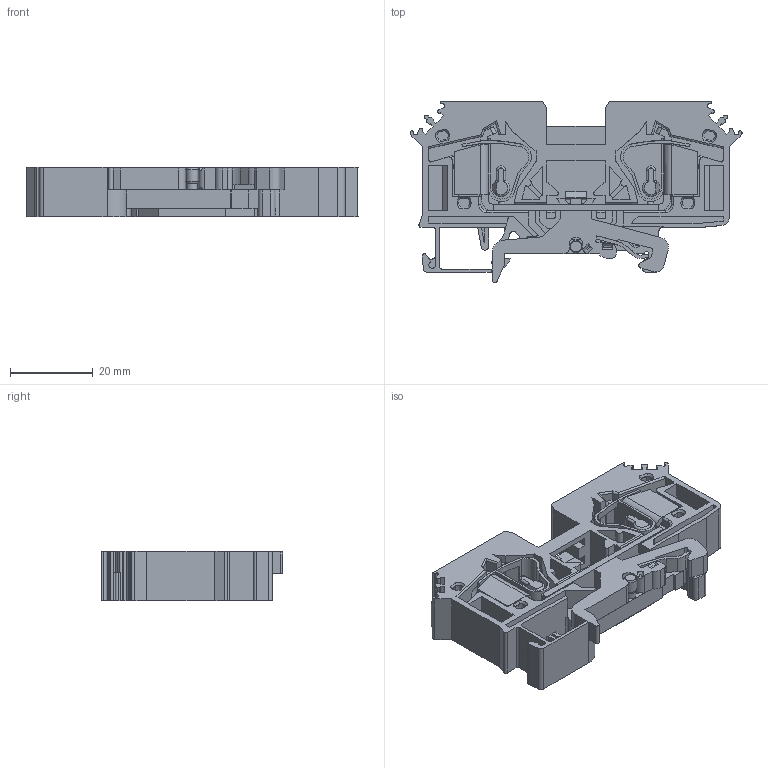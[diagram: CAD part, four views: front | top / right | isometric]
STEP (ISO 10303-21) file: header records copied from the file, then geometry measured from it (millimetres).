
FILE_DESCRIPTION (( 'STEP AP203' ), '1' );
FILE_NAME ('ﾊﾏﾐ1-16ﾂ-2ﾂﾓ-ﾐﾅ.STEP', '2019-03-04T11:21:21', ( '' ), ( '' ), 'SwSTEP 2.0', 'SolidWorks 2016', '' );
FILE_SCHEMA (( 'CONFIG_CONTROL_DESIGN' ));
Length unit declared in the file: millimetre
Products named in the file (1): ﾊﾏﾐ1-16ﾂ-2ﾂﾓ-ﾐﾅ
Bounding box: 80.1 x 43.8 x 12 mm (x, y, z)
Volume: 16263.4 mm3; surface area: 20646.9 mm2
Topology: 6 solids, 6 shells, 817 faces, 2276 edges, 1497 vertices
Faces by surface type: plane 533, cylinder 242, cone 30, torus 10, sphere 2
Full cylindrical faces by diameter (mm): 1.3 x1, 1.5 x1, 1.8 x1, 2 x1, 2.4 x1, 2.65 x1, 2.7 x1, 2.95 x1, 3.1 x1, 3.4 x1, 9.5 x2
Entity records: 26075 total; most frequent: CARTESIAN_POINT 5095, ORIENTED_EDGE 4466, DIRECTION 4202, EDGE_CURVE 2233, LINE 1604, VECTOR 1604, VERTEX_POINT 1484, AXIS2_PLACEMENT_3D 1299
